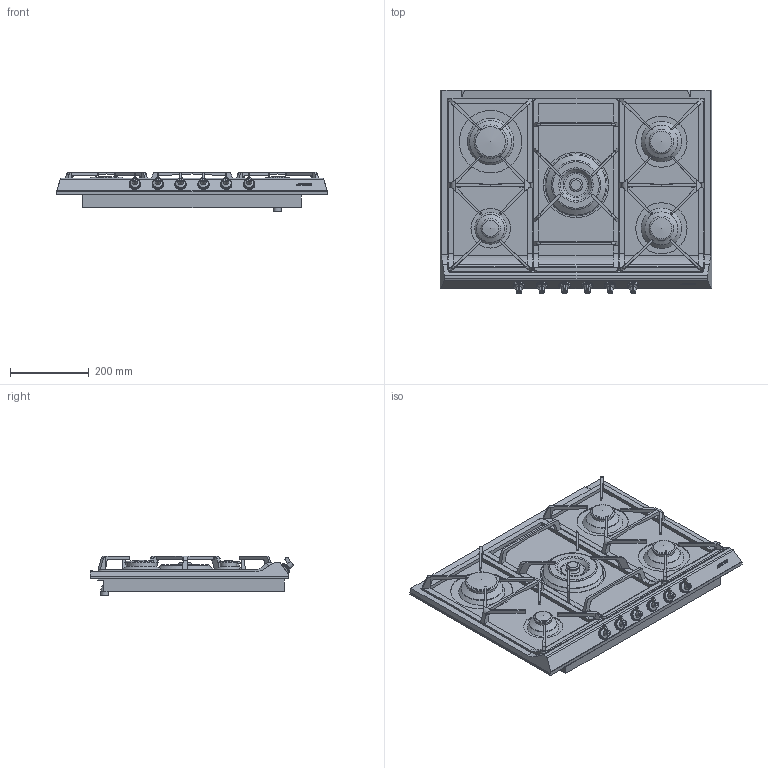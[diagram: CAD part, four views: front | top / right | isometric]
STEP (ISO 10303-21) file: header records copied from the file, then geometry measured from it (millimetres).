
FILE_DESCRIPTION(/* description */ (''),/* implementation_level */ '2;1');
FILE_NAME(/* name */ 'SE70SGH-5.stp',/* time_stamp */ '2017-10-23T09:44:51+02:00',/* author */ (''),/* organization */ (''),/* preprocessor_version */ 'ST-DEVELOPER v16',/* originating_system */ 'SIEMENS PLM Software NX 11.0',/* authorisation */ '');
FILE_SCHEMA (('AUTOMOTIVE_DESIGN { 1 0 10303 214 3 1 1 1 }'));
Length unit declared in the file: millimetre
Products named in the file (1): gras2168666D9joq
Bounding box: 688 x 516.56 x 101.5 mm (x, y, z)
Volume: 15184976.3 mm3; surface area: 1888323.3 mm2
Topology: 37 solids, 37 shells, 703 faces, 1726 edges, 1114 vertices
Faces by surface type: plane 417, cylinder 213, torus 26, cone 20, extrusion 11, sphere 8, bspline 8
Full cylindrical faces by diameter (mm): 3.37 x6, 6 x6, 8 x6, 13.5 x6, 20.5 x2, 23 x6, 25 x1, 27 x6, 29 x6, 33 x1, 42 x1, 43 x1, 55 x2, 56 x2, 70.5 x1, 77.5 x1, 78.5 x1, 83 x2, 100 x1, 106 x1, 111 x1, 113.5 x1, 122 x1, 130 x2, 152 x1, 158.5 x1, 166 x1
Entity records: 20402 total; most frequent: CARTESIAN_POINT 3853, DIRECTION 3438, ORIENTED_EDGE 3152, EDGE_CURVE 1576, AXIS2_PLACEMENT_3D 1213, VERTEX_POINT 1086, VECTOR 1012, LINE 1001
